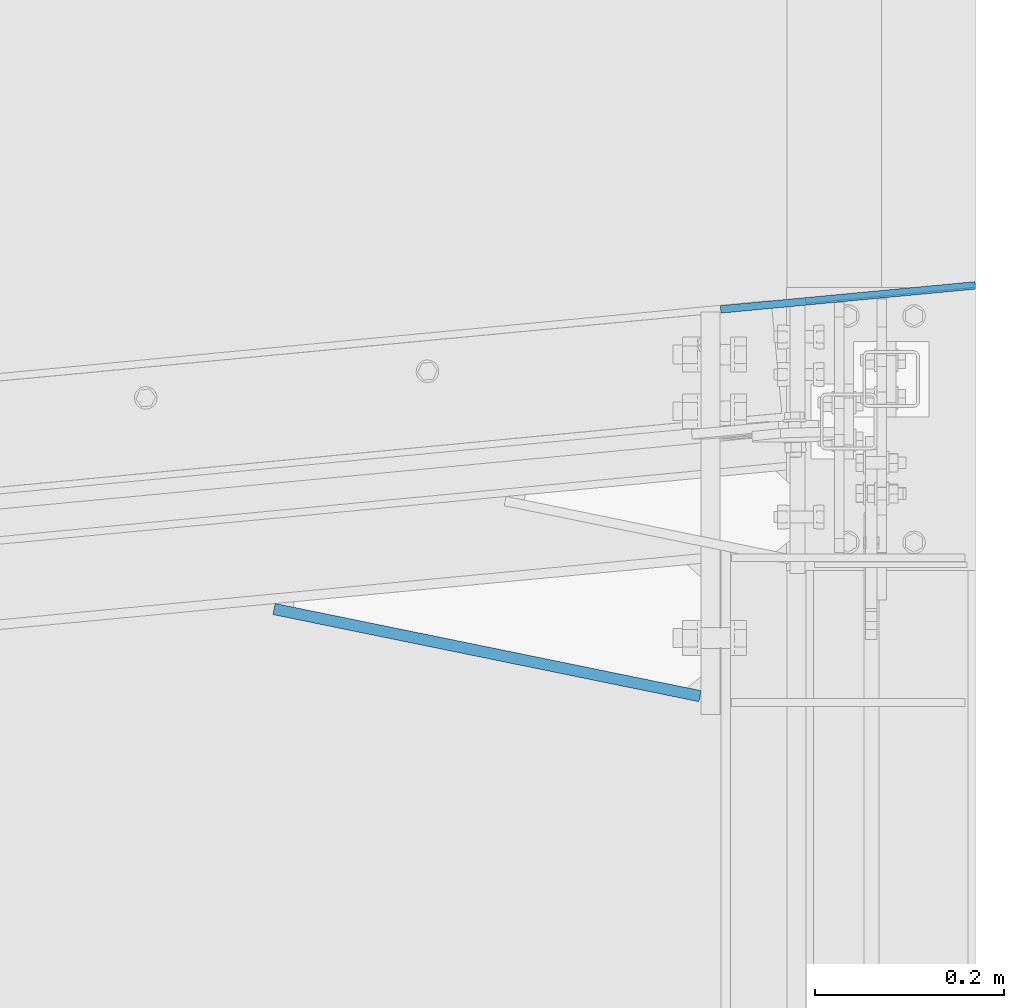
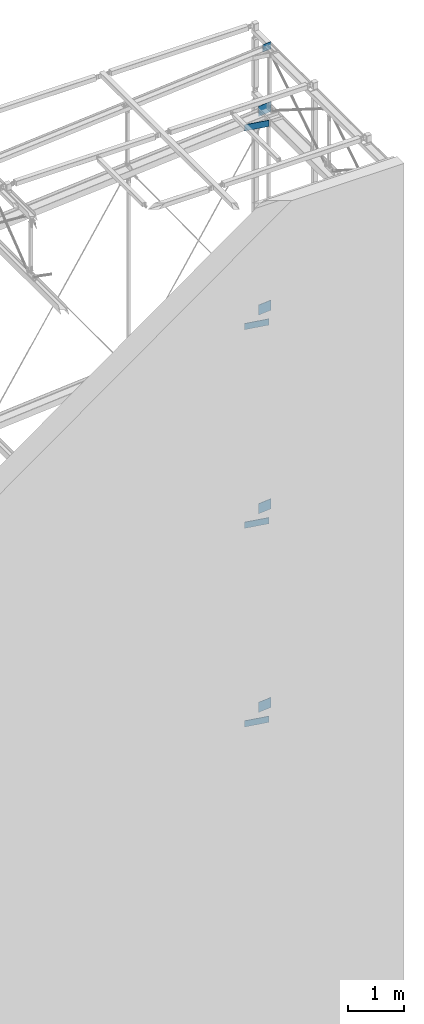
# One storey, part 90 of 271: 9 beams, 9 elements without a shape of their own.
"""IFC2X3 building model written with IfcOpenShell, lengths in millimetres."""

from ifc_helpers import new_model, si_unit, frame, origin_with_axes, origin_2d_with_axis, place, context, subcontext, project, spatial, rectangle, extrude, material, type_object, element, aggregate, save


model = new_model("IFC2X3")

# Units and contexts
model_context = context("Model", 3, precision=1e-05, world=origin_with_axes())
body_context = subcontext(model_context, "Body", "Model", "MODEL_VIEW")
ifc_project = project(units=[si_unit("LENGTHUNIT", "METRE", prefix="MILLI"), si_unit("AREAUNIT", "SQUARE_METRE"), si_unit("VOLUMEUNIT", "CUBIC_METRE"), si_unit("MASSUNIT", "GRAM", prefix="KILO"), si_unit("TIMEUNIT", "SECOND"), si_unit("PLANEANGLEUNIT", "RADIAN"), si_unit("SOLIDANGLEUNIT", "STERADIAN"), si_unit("THERMODYNAMICTEMPERATUREUNIT", "DEGREE_CELSIUS"), si_unit("LUMINOUSINTENSITYUNIT", "LUMEN")], contexts=[model_context])

# Site, building, storey
site_placement = place(None, origin_with_axes())
site = spatial("IfcSite", under=ifc_project, at=site_placement, Name="Undefined", CompositionType="ELEMENT")
building_placement = place(site_placement, origin_with_axes())
building = spatial("IfcBuilding", under=site, at=building_placement, Name="Undefined", CompositionType="ELEMENT")
storey_placement = place(building_placement, origin_with_axes())
storey = spatial("IfcBuildingStorey", under=building, at=storey_placement, Name="Undefined", CompositionType="ELEMENT", Elevation=0.0)

# Assembly, beam
assembly_1_placement = place(storey_placement, origin_with_axes())
assembly_1 = element("IfcElementAssembly", 1, at=assembly_1_placement, inside=storey, AssemblyPlace="NOTDEFINED", PredefinedType="RIGID_FRAME")
ifc_material = material(Name="STEEL/S355JR")
beam_type_1 = type_object("IfcBeamType", Name="BL6*160", PredefinedType="NOTDEFINED")
beam_1_placement = place(assembly_1_placement, frame((12708.0939193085, 4437.4839157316, 19974.3499999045), z_axis=(0.0, 0.0, -1.0), x_axis=(-0.995579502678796, -0.0939225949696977, 0.0)))
beam_1 = element("IfcBeam", 2, at=beam_1_placement, type_object=beam_type_1, material=ifc_material, Name="BLACHA", ObjectType="BL6*160", context=body_context, shape_type="SweptSolid", body=[
    extrude(rectangle(XDim=6.0, YDim=160.0, at=origin_2d_with_axis()), frame((180.799222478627, 0.0, 3.63797880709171e-12), z_axis=(-1.0, 0.0, 1.38777878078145e-17), x_axis=(0.0, -1.0, 0.0)), (0.0, 0.0, 1.0), 180.8),
])
aggregate(assembly_1, [beam_1])

assembly_2_placement = place(storey_placement, origin_with_axes())
assembly_2 = element("IfcElementAssembly", 3, at=assembly_2_placement, inside=storey, AssemblyPlace="NOTDEFINED", PredefinedType="RIGID_FRAME")
beam_type_2 = type_object("IfcBeamType", Name="BL12*135", PredefinedType="NOTDEFINED")
beam_2_placement = place(assembly_2_placement, frame((12416.1731905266, 4000.99388873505, 5684.34999990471), z_axis=(0.0, 0.0, -1.0), x_axis=(-0.979710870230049, 0.200416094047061, 0.0)))
beam_2 = element("IfcBeam", 4, at=beam_2_placement, type_object=beam_type_2, material=ifc_material, Name="BLACHA", ObjectType="BL12*135", context=body_context, shape_type="SweptSolid", body=[
    extrude(rectangle(XDim=12.0, YDim=135.0, at=origin_2d_with_axis()), frame((460.999999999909, 0.0, 9.09494701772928e-13), z_axis=(-1.0, 0.0, 1.38777878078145e-17), x_axis=(0.0, -1.0, 0.0)), (0.0, 0.0, 1.0), 461.0),
])
aggregate(assembly_2, [beam_2])

assembly_3_placement = place(storey_placement, origin_with_axes())
assembly_3 = element("IfcElementAssembly", 5, at=assembly_3_placement, inside=storey, AssemblyPlace="NOTDEFINED", PredefinedType="RIGID_FRAME")
beam_3_placement = place(assembly_3_placement, frame((12416.1731905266, 4000.99388873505, 10004.3499999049), z_axis=(0.0, 0.0, -1.0), x_axis=(-0.979710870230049, 0.200416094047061, 0.0)))
beam_3 = element("IfcBeam", 6, at=beam_3_placement, type_object=beam_type_2, material=ifc_material, Name="BLACHA", ObjectType="BL12*135", context=body_context, shape_type="SweptSolid", body=[
    extrude(rectangle(XDim=12.0, YDim=135.0, at=origin_2d_with_axis()), frame((460.999999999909, 0.0, 9.09494701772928e-13), z_axis=(-1.0, 0.0, 1.38777878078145e-17), x_axis=(0.0, -1.0, 0.0)), (0.0, 0.0, 1.0), 461.0),
])
aggregate(assembly_3, [beam_3])

assembly_4_placement = place(storey_placement, origin_with_axes())
assembly_4 = element("IfcElementAssembly", 7, at=assembly_4_placement, inside=storey, AssemblyPlace="NOTDEFINED", PredefinedType="RIGID_FRAME")
beam_4_placement = place(assembly_4_placement, frame((12416.1731905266, 4000.99388873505, 14324.349999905), z_axis=(0.0, 0.0, -1.0), x_axis=(-0.979710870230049, 0.200416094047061, 0.0)))
beam_4 = element("IfcBeam", 8, at=beam_4_placement, type_object=beam_type_2, material=ifc_material, Name="BLACHA", ObjectType="BL12*135", context=body_context, shape_type="SweptSolid", body=[
    extrude(rectangle(XDim=12.0, YDim=135.0, at=origin_2d_with_axis()), frame((460.999999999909, 0.0, 9.09494701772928e-13), z_axis=(-1.0, 0.0, 1.38777878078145e-17), x_axis=(0.0, -1.0, 0.0)), (0.0, 0.0, 1.0), 461.0),
])
aggregate(assembly_4, [beam_4])

assembly_5_placement = place(storey_placement, origin_with_axes())
assembly_5 = element("IfcElementAssembly", 9, at=assembly_5_placement, inside=storey, AssemblyPlace="NOTDEFINED", PredefinedType="RIGID_FRAME")
beam_5_placement = place(assembly_5_placement, frame((12416.1731905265, 4000.99388873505, 18644.3499999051), z_axis=(0.0, 0.0, -1.0), x_axis=(-0.979710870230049, 0.200416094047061, 0.0)))
beam_5 = element("IfcBeam", 10, at=beam_5_placement, type_object=beam_type_2, material=ifc_material, Name="BLACHA", ObjectType="BL12*135", context=body_context, shape_type="SweptSolid", body=[
    extrude(rectangle(XDim=12.0, YDim=135.0, at=origin_2d_with_axis()), frame((460.999999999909, 0.0, 9.09494701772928e-13), z_axis=(-1.0, 0.0, 1.38777878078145e-17), x_axis=(0.0, -1.0, 0.0)), (0.0, 0.0, 1.0), 461.0),
])
aggregate(assembly_5, [beam_5])

assembly_6_placement = place(storey_placement, origin_with_axes())
assembly_6 = element("IfcElementAssembly", 11, at=assembly_6_placement, inside=storey, AssemblyPlace="NOTDEFINED", PredefinedType="RIGID_FRAME")
beam_type_3 = type_object("IfcBeamType", Name="BL8*220", PredefinedType="NOTDEFINED")
beam_6_placement = place(assembly_6_placement, frame((12707.9999967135, 4436.47061498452, 5684.34999990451), z_axis=(0.0, 0.0, -1.0), x_axis=(-0.995579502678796, -0.0939225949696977, 0.0)))
beam_6 = element("IfcBeam", 12, at=beam_6_placement, type_object=beam_type_3, material=ifc_material, Name="BLACHA", ObjectType="BL8*220", context=body_context, shape_type="SweptSolid", body=[
    extrude(rectangle(XDim=8.0, YDim=220.0, at=origin_2d_with_axis()), frame((271.198833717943, 0.0, 9.09494701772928e-13), z_axis=(-1.0, 0.0, 1.38777878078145e-17), x_axis=(0.0, -1.0, 0.0)), (0.0, 0.0, 1.0), 271.2),
])
aggregate(assembly_6, [beam_6])

assembly_7_placement = place(storey_placement, origin_with_axes())
assembly_7 = element("IfcElementAssembly", 13, at=assembly_7_placement, inside=storey, AssemblyPlace="NOTDEFINED", PredefinedType="RIGID_FRAME")
beam_7_placement = place(assembly_7_placement, frame((12707.9999967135, 4436.47061498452, 10004.3499999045), z_axis=(0.0, 0.0, -1.0), x_axis=(-0.995579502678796, -0.0939225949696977, 0.0)))
beam_7 = element("IfcBeam", 14, at=beam_7_placement, type_object=beam_type_3, material=ifc_material, Name="BLACHA", ObjectType="BL8*220", context=body_context, shape_type="SweptSolid", body=[
    extrude(rectangle(XDim=8.0, YDim=220.0, at=origin_2d_with_axis()), frame((271.198833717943, 0.0, 9.09494701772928e-13), z_axis=(-1.0, 0.0, 1.38777878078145e-17), x_axis=(0.0, -1.0, 0.0)), (0.0, 0.0, 1.0), 271.2),
])
aggregate(assembly_7, [beam_7])

assembly_8_placement = place(storey_placement, origin_with_axes())
assembly_8 = element("IfcElementAssembly", 15, at=assembly_8_placement, inside=storey, AssemblyPlace="NOTDEFINED", PredefinedType="RIGID_FRAME")
beam_8_placement = place(assembly_8_placement, frame((12707.9999967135, 4436.47061498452, 14324.3499999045), z_axis=(0.0, 0.0, -1.0), x_axis=(-0.995579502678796, -0.0939225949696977, 0.0)))
beam_8 = element("IfcBeam", 16, at=beam_8_placement, type_object=beam_type_3, material=ifc_material, Name="BLACHA", ObjectType="BL8*220", context=body_context, shape_type="SweptSolid", body=[
    extrude(rectangle(XDim=8.0, YDim=220.0, at=origin_2d_with_axis()), frame((271.198833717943, 0.0, 9.09494701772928e-13), z_axis=(-1.0, 0.0, 1.38777878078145e-17), x_axis=(0.0, -1.0, 0.0)), (0.0, 0.0, 1.0), 271.2),
])
aggregate(assembly_8, [beam_8])

assembly_9_placement = place(storey_placement, origin_with_axes())
assembly_9 = element("IfcElementAssembly", 17, at=assembly_9_placement, inside=storey, AssemblyPlace="NOTDEFINED", PredefinedType="RIGID_FRAME")
beam_9_placement = place(assembly_9_placement, frame((12707.9999967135, 4436.47061498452, 18644.3499999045), z_axis=(0.0, 0.0, -1.0), x_axis=(-0.995579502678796, -0.0939225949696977, 0.0)))
beam_9 = element("IfcBeam", 18, at=beam_9_placement, type_object=beam_type_3, material=ifc_material, Name="BLACHA", ObjectType="BL8*220", context=body_context, shape_type="SweptSolid", body=[
    extrude(rectangle(XDim=8.0, YDim=220.0, at=origin_2d_with_axis()), frame((271.198833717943, 0.0, 9.09494701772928e-13), z_axis=(-1.0, 0.0, 1.38777878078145e-17), x_axis=(0.0, -1.0, 0.0)), (0.0, 0.0, 1.0), 271.2),
])
aggregate(assembly_9, [beam_9])

save(model, "model.ifc")
